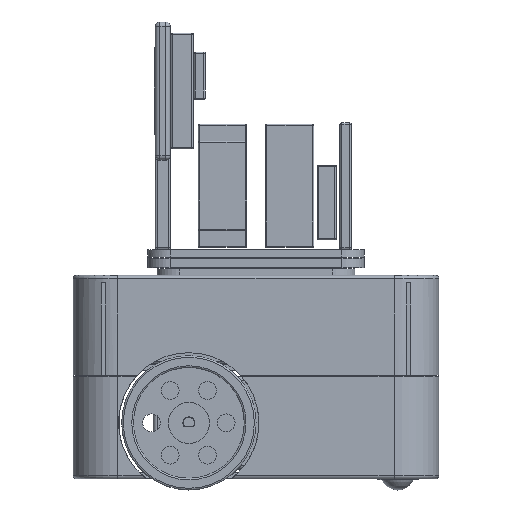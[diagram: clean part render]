
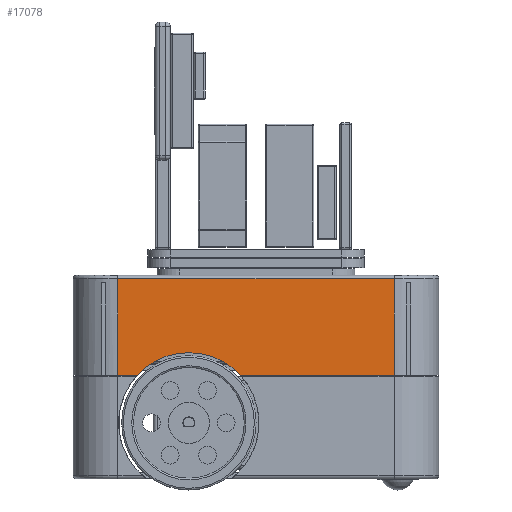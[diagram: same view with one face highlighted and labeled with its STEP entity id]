
A CAD part, left-side view. The second image highlights one B-rep face of the part: STEP entity #17078.
In plain terms, the highlighted planar face has unit normal (-1, 0, 0).
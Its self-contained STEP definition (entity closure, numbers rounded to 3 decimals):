
#17078 = ADVANCED_FACE('',(#17079),#17093,.T.);
#17079 = FACE_BOUND('',#17080,.T.);
#17080 = EDGE_LOOP('',(#17081,#17115,#17143,#17171,#17199,#17226));
#17081 = ORIENTED_EDGE('',*,*,#17082,.F.);
#17082 = EDGE_CURVE('',#17083,#17085,#17087,.T.);
#17083 = VERTEX_POINT('',#17084);
#17084 = CARTESIAN_POINT('',(-24.5,-37.,30.7));
#17085 = VERTEX_POINT('',#17086);
#17086 = CARTESIAN_POINT('',(-24.5,4.138,30.7));
#17087 = SURFACE_CURVE('',#17088,(#17092,#17103),.PCURVE_S1.);
#17088 = LINE('',#17089,#17090);
#17089 = CARTESIAN_POINT('',(-24.5,-48.5,30.7));
#17090 = VECTOR('',#17091,1.);
#17091 = DIRECTION('',(0.,1.,-0.));
#17092 = PCURVE('',#17093,#17098);
#17093 = PLANE('',#17094);
#17094 = AXIS2_PLACEMENT_3D('',#17095,#17096,#17097);
#17095 = CARTESIAN_POINT('',(-24.5,-37.,3.));
#17096 = DIRECTION('',(-1.,0.,0.));
#17097 = DIRECTION('',(0.,1.,0.));
#17098 = DEFINITIONAL_REPRESENTATION('',(#17099),#17102);
#17099 = B_SPLINE_CURVE_WITH_KNOTS('',1,(#17100,#17101),.UNSPECIFIED.,
  .F.,.F.,(2,2),(11.5,85.5),.PIECEWISE_BEZIER_KNOTS.);
#17100 = CARTESIAN_POINT('',(0.,-27.7));
#17101 = CARTESIAN_POINT('',(74.,-27.7));
#17102 = ( GEOMETRIC_REPRESENTATION_CONTEXT(2) 
PARAMETRIC_REPRESENTATION_CONTEXT() REPRESENTATION_CONTEXT('2D SPACE',''
  ) );
#17103 = PCURVE('',#17104,#17109);
#17104 = PLANE('',#17105);
#17105 = AXIS2_PLACEMENT_3D('',#17106,#17107,#17108);
#17106 = CARTESIAN_POINT('',(-60.,-60.,30.7));
#17107 = DIRECTION('',(0.,0.,1.));
#17108 = DIRECTION('',(1.,0.,-0.));
#17109 = DEFINITIONAL_REPRESENTATION('',(#17110),#17114);
#17110 = LINE('',#17111,#17112);
#17111 = CARTESIAN_POINT('',(35.5,11.5));
#17112 = VECTOR('',#17113,1.);
#17113 = DIRECTION('',(0.,1.));
#17114 = ( GEOMETRIC_REPRESENTATION_CONTEXT(2) 
PARAMETRIC_REPRESENTATION_CONTEXT() REPRESENTATION_CONTEXT('2D SPACE',''
  ) );
#17115 = ORIENTED_EDGE('',*,*,#17116,.T.);
#17116 = EDGE_CURVE('',#17083,#17117,#17119,.T.);
#17117 = VERTEX_POINT('',#17118);
#17118 = CARTESIAN_POINT('',(-24.5,-37.,56.6));
#17119 = SURFACE_CURVE('',#17120,(#17124,#17131),.PCURVE_S1.);
#17120 = LINE('',#17121,#17122);
#17121 = CARTESIAN_POINT('',(-24.5,-37.,3.));
#17122 = VECTOR('',#17123,1.);
#17123 = DIRECTION('',(0.,0.,1.));
#17124 = PCURVE('',#17093,#17125);
#17125 = DEFINITIONAL_REPRESENTATION('',(#17126),#17130);
#17126 = LINE('',#17127,#17128);
#17127 = CARTESIAN_POINT('',(0.,0.));
#17128 = VECTOR('',#17129,1.);
#17129 = DIRECTION('',(0.,-1.));
#17130 = ( GEOMETRIC_REPRESENTATION_CONTEXT(2) 
PARAMETRIC_REPRESENTATION_CONTEXT() REPRESENTATION_CONTEXT('2D SPACE',''
  ) );
#17131 = PCURVE('',#17132,#17137);
#17132 = CYLINDRICAL_SURFACE('',#17133,12.);
#17133 = AXIS2_PLACEMENT_3D('',#17134,#17135,#17136);
#17134 = CARTESIAN_POINT('',(-12.5,-37.,3.));
#17135 = DIRECTION('',(-0.,-0.,-1.));
#17136 = DIRECTION('',(1.,0.,0.));
#17137 = DEFINITIONAL_REPRESENTATION('',(#17138),#17142);
#17138 = LINE('',#17139,#17140);
#17139 = CARTESIAN_POINT('',(-3.142,0.));
#17140 = VECTOR('',#17141,1.);
#17141 = DIRECTION('',(-0.,-1.));
#17142 = ( GEOMETRIC_REPRESENTATION_CONTEXT(2) 
PARAMETRIC_REPRESENTATION_CONTEXT() REPRESENTATION_CONTEXT('2D SPACE',''
  ) );
#17143 = ORIENTED_EDGE('',*,*,#17144,.T.);
#17144 = EDGE_CURVE('',#17117,#17145,#17147,.T.);
#17145 = VERTEX_POINT('',#17146);
#17146 = CARTESIAN_POINT('',(-24.5,37.,56.6));
#17147 = SURFACE_CURVE('',#17148,(#17152,#17159),.PCURVE_S1.);
#17148 = LINE('',#17149,#17150);
#17149 = CARTESIAN_POINT('',(-24.5,-37.,56.6));
#17150 = VECTOR('',#17151,1.);
#17151 = DIRECTION('',(0.,1.,0.));
#17152 = PCURVE('',#17093,#17153);
#17153 = DEFINITIONAL_REPRESENTATION('',(#17154),#17158);
#17154 = LINE('',#17155,#17156);
#17155 = CARTESIAN_POINT('',(0.,-53.6));
#17156 = VECTOR('',#17157,1.);
#17157 = DIRECTION('',(1.,0.));
#17158 = ( GEOMETRIC_REPRESENTATION_CONTEXT(2) 
PARAMETRIC_REPRESENTATION_CONTEXT() REPRESENTATION_CONTEXT('2D SPACE',''
  ) );
#17159 = PCURVE('',#17160,#17165);
#17160 = CYLINDRICAL_SURFACE('',#17161,0.9);
#17161 = AXIS2_PLACEMENT_3D('',#17162,#17163,#17164);
#17162 = CARTESIAN_POINT('',(-23.6,-37.,56.6));
#17163 = DIRECTION('',(0.,1.,0.));
#17164 = DIRECTION('',(-1.,0.,0.));
#17165 = DEFINITIONAL_REPRESENTATION('',(#17166),#17170);
#17166 = LINE('',#17167,#17168);
#17167 = CARTESIAN_POINT('',(0.,0.));
#17168 = VECTOR('',#17169,1.);
#17169 = DIRECTION('',(0.,1.));
#17170 = ( GEOMETRIC_REPRESENTATION_CONTEXT(2) 
PARAMETRIC_REPRESENTATION_CONTEXT() REPRESENTATION_CONTEXT('2D SPACE',''
  ) );
#17171 = ORIENTED_EDGE('',*,*,#17172,.F.);
#17172 = EDGE_CURVE('',#17173,#17145,#17175,.T.);
#17173 = VERTEX_POINT('',#17174);
#17174 = CARTESIAN_POINT('',(-24.5,37.,30.7));
#17175 = SURFACE_CURVE('',#17176,(#17180,#17187),.PCURVE_S1.);
#17176 = LINE('',#17177,#17178);
#17177 = CARTESIAN_POINT('',(-24.5,37.,3.));
#17178 = VECTOR('',#17179,1.);
#17179 = DIRECTION('',(0.,0.,1.));
#17180 = PCURVE('',#17093,#17181);
#17181 = DEFINITIONAL_REPRESENTATION('',(#17182),#17186);
#17182 = LINE('',#17183,#17184);
#17183 = CARTESIAN_POINT('',(74.,0.));
#17184 = VECTOR('',#17185,1.);
#17185 = DIRECTION('',(0.,-1.));
#17186 = ( GEOMETRIC_REPRESENTATION_CONTEXT(2) 
PARAMETRIC_REPRESENTATION_CONTEXT() REPRESENTATION_CONTEXT('2D SPACE',''
  ) );
#17187 = PCURVE('',#17188,#17193);
#17188 = CYLINDRICAL_SURFACE('',#17189,12.);
#17189 = AXIS2_PLACEMENT_3D('',#17190,#17191,#17192);
#17190 = CARTESIAN_POINT('',(-12.5,37.,3.));
#17191 = DIRECTION('',(-0.,-0.,-1.));
#17192 = DIRECTION('',(1.,0.,0.));
#17193 = DEFINITIONAL_REPRESENTATION('',(#17194),#17198);
#17194 = LINE('',#17195,#17196);
#17195 = CARTESIAN_POINT('',(-3.142,0.));
#17196 = VECTOR('',#17197,1.);
#17197 = DIRECTION('',(-0.,-1.));
#17198 = ( GEOMETRIC_REPRESENTATION_CONTEXT(2) 
PARAMETRIC_REPRESENTATION_CONTEXT() REPRESENTATION_CONTEXT('2D SPACE',''
  ) );
#17199 = ORIENTED_EDGE('',*,*,#17200,.F.);
#17200 = EDGE_CURVE('',#17201,#17173,#17203,.T.);
#17201 = VERTEX_POINT('',#17202);
#17202 = CARTESIAN_POINT('',(-24.5,31.862,30.7));
#17203 = SURFACE_CURVE('',#17204,(#17208,#17214),.PCURVE_S1.);
#17204 = LINE('',#17205,#17206);
#17205 = CARTESIAN_POINT('',(-24.5,-48.5,30.7));
#17206 = VECTOR('',#17207,1.);
#17207 = DIRECTION('',(0.,1.,-0.));
#17208 = PCURVE('',#17093,#17209);
#17209 = DEFINITIONAL_REPRESENTATION('',(#17210),#17213);
#17210 = B_SPLINE_CURVE_WITH_KNOTS('',1,(#17211,#17212),.UNSPECIFIED.,
  .F.,.F.,(2,2),(11.5,85.5),.PIECEWISE_BEZIER_KNOTS.);
#17211 = CARTESIAN_POINT('',(0.,-27.7));
#17212 = CARTESIAN_POINT('',(74.,-27.7));
#17213 = ( GEOMETRIC_REPRESENTATION_CONTEXT(2) 
PARAMETRIC_REPRESENTATION_CONTEXT() REPRESENTATION_CONTEXT('2D SPACE',''
  ) );
#17214 = PCURVE('',#17215,#17220);
#17215 = PLANE('',#17216);
#17216 = AXIS2_PLACEMENT_3D('',#17217,#17218,#17219);
#17217 = CARTESIAN_POINT('',(-60.,-60.,30.7));
#17218 = DIRECTION('',(0.,0.,1.));
#17219 = DIRECTION('',(1.,0.,-0.));
#17220 = DEFINITIONAL_REPRESENTATION('',(#17221),#17225);
#17221 = LINE('',#17222,#17223);
#17222 = CARTESIAN_POINT('',(35.5,11.5));
#17223 = VECTOR('',#17224,1.);
#17224 = DIRECTION('',(0.,1.));
#17225 = ( GEOMETRIC_REPRESENTATION_CONTEXT(2) 
PARAMETRIC_REPRESENTATION_CONTEXT() REPRESENTATION_CONTEXT('2D SPACE',''
  ) );
#17226 = ORIENTED_EDGE('',*,*,#17227,.T.);
#17227 = EDGE_CURVE('',#17201,#17085,#17228,.T.);
#17228 = SURFACE_CURVE('',#17229,(#17234,#17245),.PCURVE_S1.);
#17229 = CIRCLE('',#17230,18.8);
#17230 = AXIS2_PLACEMENT_3D('',#17231,#17232,#17233);
#17231 = CARTESIAN_POINT('',(-24.5,18.,18.));
#17232 = DIRECTION('',(1.,0.,0.));
#17233 = DIRECTION('',(0.,0.,-1.));
#17234 = PCURVE('',#17093,#17235);
#17235 = DEFINITIONAL_REPRESENTATION('',(#17236),#17244);
#17236 = ( BOUNDED_CURVE() B_SPLINE_CURVE(2,(#17237,#17238,#17239,#17240
    ,#17241,#17242,#17243),.UNSPECIFIED.,.T.,.F.) 
B_SPLINE_CURVE_WITH_KNOTS((1,2,2,2,2,1),(-2.094,0.,
    2.094,4.189,6.283,8.378),
.UNSPECIFIED.) CURVE() GEOMETRIC_REPRESENTATION_ITEM() 
RATIONAL_B_SPLINE_CURVE((1.,0.5,1.,0.5,1.,0.5,1.)) REPRESENTATION_ITEM(
  '') );
#17237 = CARTESIAN_POINT('',(55.,3.8));
#17238 = CARTESIAN_POINT('',(87.563,3.8));
#17239 = CARTESIAN_POINT('',(71.281,-24.4));
#17240 = CARTESIAN_POINT('',(55.,-52.6));
#17241 = CARTESIAN_POINT('',(38.719,-24.4));
#17242 = CARTESIAN_POINT('',(22.437,3.8));
#17243 = CARTESIAN_POINT('',(55.,3.8));
#17244 = ( GEOMETRIC_REPRESENTATION_CONTEXT(2) 
PARAMETRIC_REPRESENTATION_CONTEXT() REPRESENTATION_CONTEXT('2D SPACE',''
  ) );
#17245 = PCURVE('',#17246,#17251);
#17246 = CYLINDRICAL_SURFACE('',#17247,18.8);
#17247 = AXIS2_PLACEMENT_3D('',#17248,#17249,#17250);
#17248 = CARTESIAN_POINT('',(-26.7,18.,18.));
#17249 = DIRECTION('',(1.,0.,0.));
#17250 = DIRECTION('',(0.,0.,-1.));
#17251 = DEFINITIONAL_REPRESENTATION('',(#17252),#17256);
#17252 = LINE('',#17253,#17254);
#17253 = CARTESIAN_POINT('',(0.,2.2));
#17254 = VECTOR('',#17255,1.);
#17255 = DIRECTION('',(1.,0.));
#17256 = ( GEOMETRIC_REPRESENTATION_CONTEXT(2) 
PARAMETRIC_REPRESENTATION_CONTEXT() REPRESENTATION_CONTEXT('2D SPACE',''
  ) );
